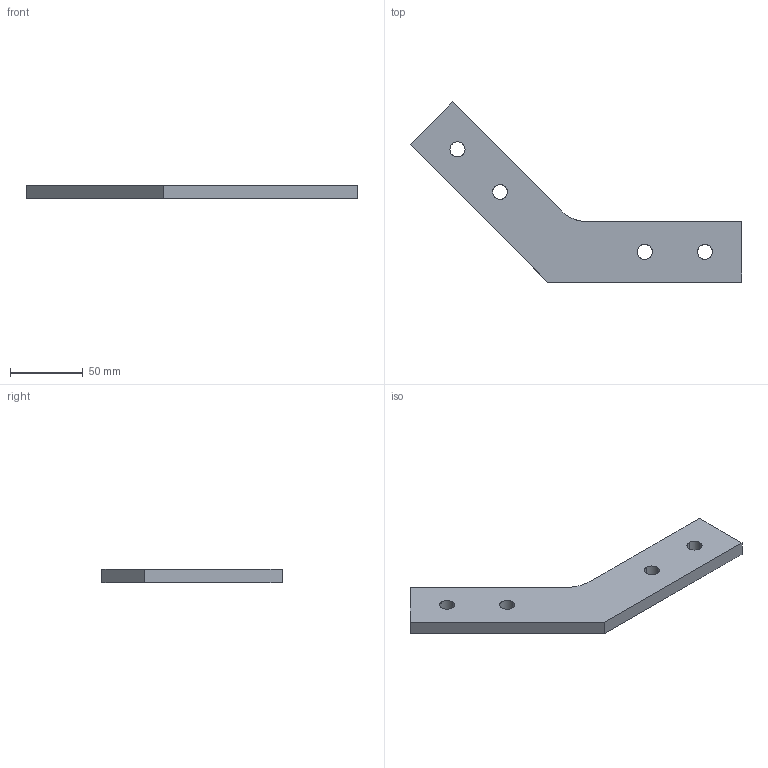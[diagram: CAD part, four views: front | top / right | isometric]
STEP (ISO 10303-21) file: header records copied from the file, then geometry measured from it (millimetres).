
FILE_DESCRIPTION(('TurboCAD Mac Pro'),'Build 980');
FILE_NAME('F20V-2540.stp',' ',(''),(''),'ACIS Interop','IMSI','TurboCAD Mac Pro BY IMSI, INCORPORATED');
FILE_SCHEMA(('automotive_design'));
Length unit declared in the file: inch
Products named in the file (1): 1
Bounding box: 227.4 x 123.35 x 9.53 mm (x, y, z)
Volume: 94880.9 mm3; surface area: 26681.3 mm2
Topology: 1 solids, 1 shells, 27 faces, 75 edges, 50 vertices
Faces by surface type: bspline 17, plane 10
Entity records: 1207 total; most frequent: CARTESIAN_POINT 374, ORIENTED_EDGE 150, EDGE_CURVE 75, DIRECTION 63, VERTEX_POINT 50, LINE 41, VECTOR 41, EDGE_LOOP 35
